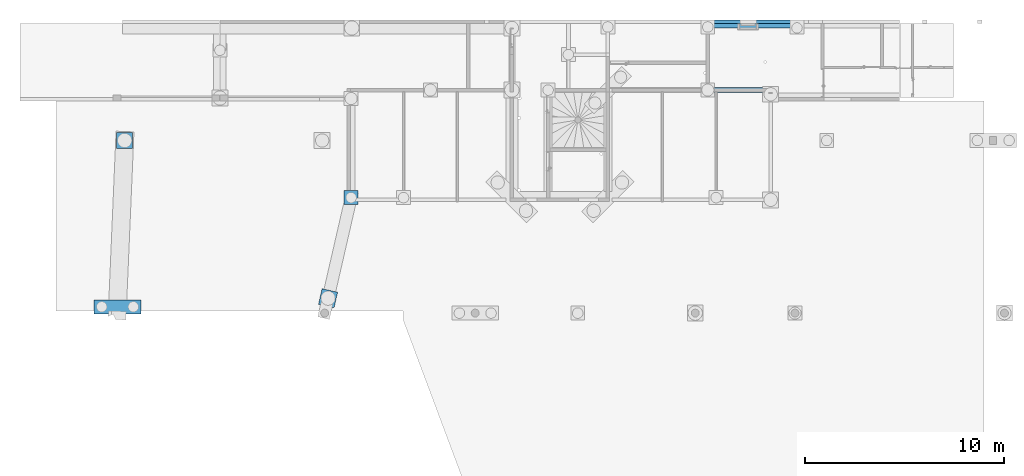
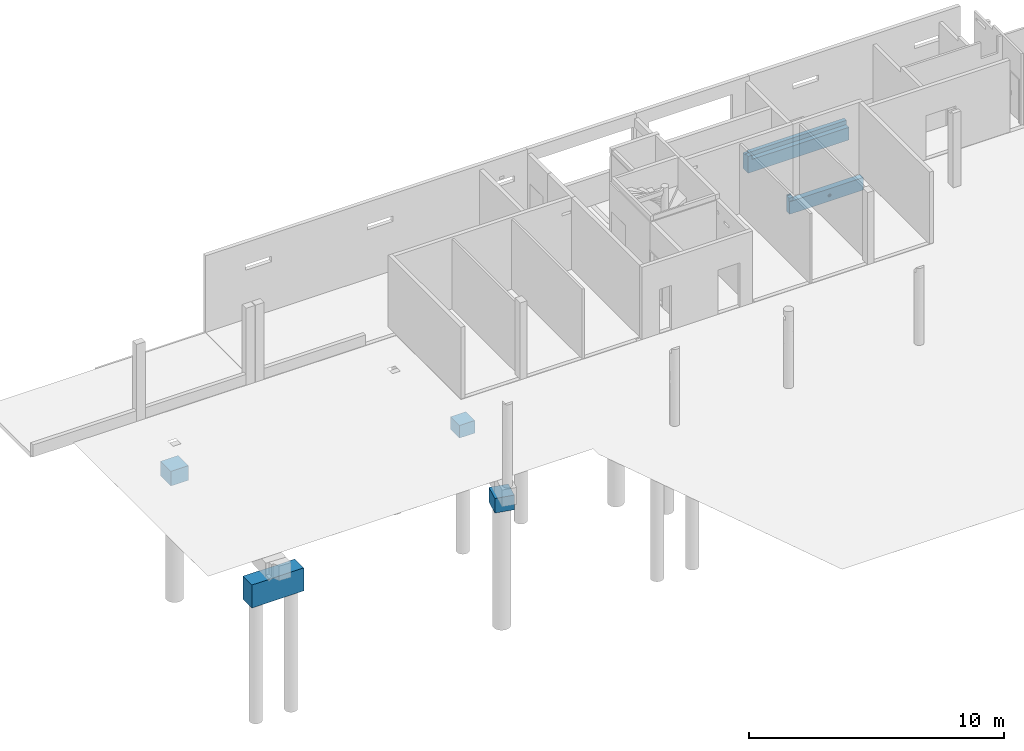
# One storey, part 15 of 29: 4 slabs, 2 beams.
"""IFC2X3 building model written with IfcOpenShell, lengths in centimetres."""

from ifc_helpers import new_model, entity, si_unit, converted_unit, derived_unit, direction, frame, origin, place, context, subcontext, project, spatial, faceted_brep, material, material_list, type_object, element, save


model = new_model("IFC2X3")

# Units and contexts
model_context = context("Model", 3, precision=0.001, world=origin(), true_north=direction((6.12303176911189e-17, 1.0)))
body_context = subcontext(model_context, "Body", "Model", "MODEL_VIEW")
ifc_project = project(units=[si_unit("LENGTHUNIT", "METRE", prefix="CENTI"), si_unit("AREAUNIT", "SQUARE_METRE"), si_unit("VOLUMEUNIT", "CUBIC_METRE"), converted_unit("PLANEANGLEUNIT", "DEGREE", entity("IfcRatioMeasure", 0.0174532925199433), si_unit("PLANEANGLEUNIT", "RADIAN"), dimensions=[0, 0, 0, 0, 0, 0, 0]), si_unit("MASSUNIT", "GRAM", prefix="KILO"), derived_unit("MASSDENSITYUNIT", [(si_unit("MASSUNIT", "GRAM", prefix="KILO"), 1), (si_unit("LENGTHUNIT", "METRE"), -3)]), si_unit("TIMEUNIT", "SECOND"), si_unit("FREQUENCYUNIT", "HERTZ"), si_unit("THERMODYNAMICTEMPERATUREUNIT", "DEGREE_CELSIUS"), derived_unit("THERMALTRANSMITTANCEUNIT", [(si_unit("MASSUNIT", "GRAM", prefix="KILO"), 1), (si_unit("THERMODYNAMICTEMPERATUREUNIT", "KELVIN"), -1), (si_unit("TIMEUNIT", "SECOND"), -3)]), derived_unit("VOLUMETRICFLOWRATEUNIT", [(si_unit("LENGTHUNIT", "METRE"), 3), (si_unit("TIMEUNIT", "SECOND"), -1)]), si_unit("ELECTRICCURRENTUNIT", "AMPERE"), si_unit("ELECTRICVOLTAGEUNIT", "VOLT"), si_unit("POWERUNIT", "WATT"), si_unit("FORCEUNIT", "NEWTON"), si_unit("ILLUMINANCEUNIT", "LUX"), si_unit("LUMINOUSFLUXUNIT", "LUMEN"), si_unit("LUMINOUSINTENSITYUNIT", "CANDELA"), derived_unit("USERDEFINED", [(si_unit("MASSUNIT", "GRAM", prefix="KILO"), -1), (si_unit("LENGTHUNIT", "METRE"), -2), (si_unit("TIMEUNIT", "SECOND"), 3), (si_unit("LUMINOUSFLUXUNIT", "LUMEN"), 1)]), derived_unit("LINEARVELOCITYUNIT", [(si_unit("LENGTHUNIT", "METRE"), 1), (si_unit("TIMEUNIT", "SECOND"), -1)]), si_unit("PRESSUREUNIT", "PASCAL"), derived_unit("USERDEFINED", [(si_unit("LENGTHUNIT", "METRE"), -2), (si_unit("MASSUNIT", "GRAM", prefix="KILO"), 1), (si_unit("TIMEUNIT", "SECOND"), -2)])], contexts=[model_context])

# Site, building, storey
site_placement = place(None, origin())
site = spatial("IfcSite", under=ifc_project, at=site_placement, Name="Default", CompositionType="ELEMENT")
building_placement = place(site_placement, origin())
building = spatial("IfcBuilding", under=site, at=building_placement, Name="CAGE 03", CompositionType="ELEMENT")
storey_placement = place(building_placement, frame((0.0, 0.0, -26.0)))
storey = spatial("IfcBuildingStorey", under=building, at=storey_placement, Name="+3.74", CompositionType="ELEMENT", Elevation=-26.0000000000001)

# Beams
ifc_material_1 = material(Name="Béton, C25/30")
ifc_material_2 = material(Name="<Unnamed>")
ifc_material_list = material_list([ifc_material_1, ifc_material_2])
beam_type_1 = type_object("IfcBeamType", Name="40x80ht", PredefinedType="BEAM", material=ifc_material_list)
beam_1_placement = place(storey_placement, frame((7815.36582014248, 5253.6606660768, -80.0)))
element("IfcBeam", 1, at=beam_1_placement, inside=storey, type_object=beam_type_1, material=ifc_material_1, Name="BBGO-Poutre rect:40x80ht", ObjectType="BBGO-Poutre rect:40x80ht", context=body_context, shape_type="Brep", body=[
    faceted_brep([(0.0, 0.0, 0.0), (457.0, 0.0, 0.0), (457.0, 0.0, 60.0), (18.0, 0.0, 60.0), (18.0, 0.0, 80.0), (0.0, 0.0, 80.0), (0.0, 22.0, 0.0), (0.0, 40.0, 0.0), (44.0, 40.0, 0.0), (422.0, 40.0, 0.0), (457.0, 40.0, 0.0), (0.0, 40.0, 75.0), (18.0, 40.0, 75.0), (18.0, 40.0, 80.0), (457.0, 40.0, 80.0), (18.0, 22.0, 80.0), (457.0, 22.0, 80.0), (457.0, 22.0, 60.0), (18.0, 22.0, 75.0), (0.0, 22.0, 75.0), (0.0, 22.0, 80.0), (18.0, 22.0, 60.0)], [[[0, 1, 2, 3, 4, 5]], [[1, 0, 6, 7, 8, 9, 10]], [[10, 9, 8, 7, 11, 12, 13, 14]], [[14, 13, 15, 16]], [[1, 10, 14, 16, 17, 2]], [[18, 19, 20, 15]], [[19, 18, 12, 11]], [[12, 18, 15, 13]], [[17, 21, 3, 2]], [[18, 21, 17, 16, 15]], [[21, 18, 15, 4, 3]], [[15, 20, 5, 4]], [[7, 6, 0, 5, 20, 19, 11]]]),
])
beam_type_2 = type_object("IfcBeamType", Name="BBGO-Poutre rect:25x80ht", PredefinedType="BEAM")
beam_2_placement = place(storey_placement, frame((7815.36582014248, 4929.1606660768, -80.0), z_axis=(0.0, 0.0, 1.0), x_axis=(-1.0, 0.0, 0.0)))
element("IfcBeam", 2, at=beam_2_placement, inside=storey, type_object=beam_type_2, material=ifc_material_1, Name="BBGO-Poutre rect:25x80ht", ObjectType="BBGO-Poutre rect:25x80ht", context=body_context, shape_type="Brep", body=[
    faceted_brep([(0.0, -21.5000000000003, 80.0), (0.0, -25.0, 80.0), (0.0, -25.0, 55.0), (0.0, -25.0, 0.0), (0.0, 0.0, 0.0), (0.0, 0.0, 60.0), (0.0, -3.50000000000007, 60.0), (0.0, -3.50000000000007, 75.0), (0.0, -21.5000000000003, 75.0), (-334.0, 0.0, 0.0), (-334.0, -25.0, 0.0), (-334.0, -25.0, 60.0), (-334.0, 0.0, 60.0), (-18.0, -25.0, 60.0), (-18.0, -25.0, 80.0), (-174.540017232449, -25.0, 25.38098435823), (-174.283908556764, -25.0, 26.6685296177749), (-174.007173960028, -25.0, 28.0597683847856), (-174.273595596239, -25.0, 29.3991603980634), (-174.540017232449, -25.0, 30.7385524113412), (-175.298721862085, -25.0, 31.8740341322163), (-176.057426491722, -25.0, 33.0095158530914), (-177.192908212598, -25.0, 33.7682204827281), (-178.328389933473, -25.0, 34.5269251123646), (-179.667781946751, -25.0, 34.7933467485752), (-181.007173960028, -25.0, 35.0597683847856), (-182.346565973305, -25.0, 34.7933467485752), (-183.685957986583, -25.0, 34.5269251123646), (-184.821439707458, -25.0, 33.7682204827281), (-185.956921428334, -25.0, 33.0095158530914), (-186.715626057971, -25.0, 31.8740341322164), (-187.474330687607, -25.0, 30.7385524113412), (-187.730439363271, -25.0, 29.4510071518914), (-188.007173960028, -25.0, 28.0597683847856), (-181.007173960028, -25.0, 21.0597683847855), (-182.346565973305, -25.0, 21.3261900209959), (-187.740752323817, -25.0, 26.7203763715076), (-187.474330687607, -25.0, 25.3809843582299), (-183.685957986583, -25.0, 21.5926116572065), (-184.821439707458, -25.0, 22.351316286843), (-185.956921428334, -25.0, 23.1100209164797), (-186.715626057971, -25.0, 24.2455026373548), (-175.298721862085, -25.0, 24.2455026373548), (-176.057426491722, -25.0, 23.1100209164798), (-177.192908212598, -25.0, 22.351316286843), (-178.328389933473, -25.0, 21.5926116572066), (-179.667781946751, -25.0, 21.3261900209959), (-316.0, 0.0, 0.0), (-181.007173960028, 0.0, 21.0597683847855), (-182.346565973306, 0.0, 21.3261900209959), (-183.685957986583, 0.0, 21.5926116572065), (-184.821439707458, 0.0, 22.351316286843), (-185.956921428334, 0.0, 23.1100209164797), (-186.715626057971, 0.0, 24.2455026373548), (-187.474330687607, 0.0, 25.3809843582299), (-187.740752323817, 0.0, 26.7203763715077), (-188.007173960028, 0.0, 28.0597683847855), (-316.0, 0.0, 60.0), (-187.740752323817, 0.0, 29.3991603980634), (-187.474330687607, 0.0, 30.7385524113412), (-186.715626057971, 0.0, 31.8740341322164), (-185.956921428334, 0.0, 33.0095158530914), (-184.821439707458, 0.0, 33.7682204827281), (-183.685957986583, 0.0, 34.5269251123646), (-182.346565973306, 0.0, 34.7933467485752), (-181.007173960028, 0.0, 35.0597683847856), (-174.007173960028, 0.0, 28.0597683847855), (-174.283908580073, 0.0, 29.4510072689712), (-174.540017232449, 0.0, 30.7385524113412), (-175.298721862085, 0.0, 31.8740341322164), (-176.057426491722, 0.0, 33.0095158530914), (-177.192908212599, 0.0, 33.7682204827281), (-178.328389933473, 0.0, 34.5269251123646), (-179.667781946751, 0.0, 34.7933467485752), (-179.667781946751, 0.0, 21.3261900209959), (-178.328389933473, 0.0, 21.5926116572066), (-177.192908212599, 0.0, 22.351316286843), (-176.057426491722, 0.0, 23.1100209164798), (-175.298721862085, 0.0, 24.2455026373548), (-174.540017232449, 0.0, 25.38098435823), (-174.27359559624, 0.0, 26.7203763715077), (-18.0, -21.5000000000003, 80.0), (-18.0, -3.50000000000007, 60.0), (-18.0, -3.50000000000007, 75.0), (-18.0, -21.5000000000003, 75.0)], [[[0, 1, 2, 3, 4, 5, 6, 7, 8]], [[9, 10, 11, 12]], [[13, 1, 14]], [[1, 13, 2]], [[2, 13, 3]], [[15, 3, 13]], [[13, 16, 15]], [[13, 17, 16]], [[13, 18, 17]], [[13, 19, 18]], [[13, 20, 19]], [[13, 21, 20]], [[13, 22, 21]], [[13, 23, 22]], [[13, 24, 23]], [[13, 25, 24]], [[25, 13, 11]], [[11, 26, 25]], [[11, 27, 26]], [[11, 28, 27]], [[11, 29, 28]], [[11, 30, 29]], [[11, 31, 30]], [[11, 32, 31]], [[11, 33, 32]], [[11, 10, 33]], [[10, 3, 34]], [[10, 34, 35]], [[10, 36, 33]], [[10, 37, 36]], [[10, 35, 38]], [[10, 38, 39]], [[10, 39, 40]], [[10, 40, 41]], [[10, 41, 37]], [[3, 15, 42]], [[3, 42, 43]], [[3, 43, 44]], [[3, 44, 45]], [[3, 45, 46]], [[3, 46, 34]], [[47, 4, 3, 10, 9]], [[47, 48, 4]], [[47, 49, 48]], [[47, 50, 49]], [[47, 51, 50]], [[47, 52, 51]], [[47, 53, 52]], [[47, 54, 53]], [[47, 55, 54]], [[47, 56, 55]], [[56, 47, 57]], [[9, 57, 47]], [[57, 9, 12]], [[57, 58, 56]], [[57, 59, 58]], [[57, 60, 59]], [[57, 61, 60]], [[57, 62, 61]], [[57, 63, 62]], [[57, 64, 63]], [[57, 65, 64]], [[5, 65, 57]], [[5, 4, 66]], [[5, 66, 67]], [[5, 67, 68]], [[5, 68, 69]], [[5, 69, 70]], [[5, 70, 71]], [[5, 71, 72]], [[5, 72, 73]], [[5, 73, 65]], [[4, 48, 74]], [[4, 74, 75]], [[4, 75, 76]], [[4, 76, 77]], [[4, 77, 78]], [[4, 78, 79]], [[4, 79, 80]], [[4, 80, 66]], [[1, 0, 81, 14]], [[57, 12, 11, 13, 82, 6, 5]], [[7, 6, 82, 83]], [[84, 83, 82, 13, 14, 81]], [[0, 8, 84, 81]], [[8, 7, 83, 84]], [[52, 53, 54, 37, 41, 40]], [[51, 52, 40, 39, 38, 50]], [[74, 48, 34, 46, 45, 75]], [[49, 50, 38, 35, 34, 48]], [[54, 55, 56, 33, 36, 37]], [[76, 75, 45, 44, 43, 77]], [[80, 79, 15, 16, 17, 66]], [[78, 77, 43, 42, 15, 79]], [[71, 70, 21, 22, 23, 72]], [[24, 25, 65, 73, 72, 23]], [[64, 65, 25, 26, 27, 63]], [[18, 19, 68, 67, 66, 17]], [[20, 21, 70, 69, 68, 19]], [[62, 63, 27, 28, 29, 61]], [[58, 59, 31, 32, 33, 56]], [[60, 61, 29, 30, 31, 59]]]),
])

# Slabs
slab_1_placement = place(storey_placement, frame((4742.6444007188, 3818.2557371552, -212.0)))
element("IfcSlab", 3, at=slab_1_placement, inside=storey, material=ifc_material_1, Name="M_Base-Rectangulaire:235x70x110ht", ObjectType="M_Base-Rectangulaire:235x70x110ht", PredefinedType="BASESLAB", context=body_context, shape_type="Brep", body=[
    faceted_brep([(235.0, 70.0, 110.0), (0.0, 70.0, 110.0), (0.0, 0.0, 110.0), (235.0, 0.0, 110.0), (0.0, 0.0, 0.0), (40.7700042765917, 8.64516977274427, 0.0), (235.0, 0.0, 0.0), (35.6445129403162, 10.3105428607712, 0.0), (30.5190216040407, 11.9759159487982, 0.0), (25.3935302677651, 13.641289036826, 0.0), (20.2680389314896, 15.3066621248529, 0.0), (18.0760291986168, 20.2299965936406, 0.0), (15.8840194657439, 25.1533310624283, 0.0), (13.692009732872, 30.076665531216, 0.0), (11.4999999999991, 35.0, 0.0), (0.0, 70.0, 0.0), (14.0305248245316, 42.7881545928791, 0.0), (16.5610496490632, 50.576309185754, 0.0), (21.2282861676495, 53.2709394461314, 0.0), (25.895522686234, 55.9655697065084, 0.0), (30.5627592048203, 58.6601999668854, 0.0), (35.2299957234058, 61.3548302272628, 0.0), (194.229995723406, 61.3548302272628, 0.0), (235.0, 70.0, 0.0), (223.499999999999, 35.0, 0.0), (221.307990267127, 39.9233344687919, 0.0), (199.355487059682, 59.6894571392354, 0.0), (204.480978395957, 58.0240840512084, 0.0), (209.606469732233, 56.3587109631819, 0.0), (214.731961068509, 54.693337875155, 0.0), (219.115980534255, 44.8466689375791, 0.0), (216.923970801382, 49.7700034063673, 0.0), (40.3554870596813, 59.6894571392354, 0.0), (45.4809783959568, 58.0240840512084, 0.0), (50.6064697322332, 56.3587109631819, 0.0), (55.7319610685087, 54.693337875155, 0.0), (189.562759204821, 58.6601999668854, 0.0), (184.895522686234, 55.9655697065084, 0.0), (180.228286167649, 53.2709394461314, 0.0), (175.561049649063, 50.576309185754, 0.0), (57.9239708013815, 49.7700034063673, 0.0), (60.1159805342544, 44.8466689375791, 0.0), (62.3079902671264, 39.9233344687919, 0.0), (64.4999999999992, 35.0, 0.0), (173.030524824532, 42.7881545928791, 0.0), (170.499999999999, 35.0, 0.0), (61.9694751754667, 27.2118454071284, 0.0), (59.4389503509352, 19.4236908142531, 0.0), (172.692009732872, 30.076665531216, 0.0), (174.884019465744, 25.1533310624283, 0.0), (177.076029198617, 20.2299965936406, 0.0), (179.26803893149, 15.3066621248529, 0.0), (45.437240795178, 11.3398000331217, 0.0), (184.393530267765, 13.641289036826, 0.0), (50.1044773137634, 14.0344302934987, 0.0), (54.7717138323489, 16.7290605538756, 0.0), (189.519021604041, 11.9759159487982, 0.0), (194.644512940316, 10.3105428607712, 0.0), (199.770004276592, 8.64516977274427, 0.0), (204.437240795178, 11.3398000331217, 0.0), (209.104477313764, 14.0344302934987, 0.0), (213.771713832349, 16.7290605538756, 0.0), (218.438950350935, 19.4236908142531, 0.0), (220.969475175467, 27.2118454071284, 0.0), (11.4999999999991, 35.0, 5.0), (13.692009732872, 39.9233344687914, 5.0), (15.8840194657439, 44.8466689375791, 5.0), (18.0760291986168, 49.7700034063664, 5.0), (20.2680389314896, 54.6933378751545, 5.0), (25.3935302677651, 56.3587109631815, 5.0), (30.5190216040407, 58.0240840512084, 5.0), (35.6445129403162, 59.6894571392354, 5.0), (40.7700042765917, 61.3548302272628, 5.0), (45.4372407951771, 58.6601999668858, 5.0), (50.1044773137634, 55.9655697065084, 5.0), (54.7717138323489, 53.270939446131, 5.0), (59.4389503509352, 50.5763091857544, 5.0), (61.9694751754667, 42.7881545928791, 5.0), (64.4999999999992, 35.0, 5.0), (62.3079902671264, 30.076665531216, 5.0), (60.1159805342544, 25.1533310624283, 5.0), (57.9239708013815, 20.2299965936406, 5.0), (55.7319610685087, 15.3066621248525, 5.0), (50.6064697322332, 13.6412890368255, 5.0), (45.4809783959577, 11.9759159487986, 5.0), (40.3554870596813, 10.3105428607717, 5.0), (35.2299957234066, 8.6451697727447, 5.0), (30.5627592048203, 11.3398000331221, 5.0), (25.895522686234, 14.0344302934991, 5.0), (21.2282861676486, 16.7290605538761, 5.0), (16.5610496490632, 19.4236908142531, 5.0), (14.0305248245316, 27.2118454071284, 5.0), (170.499999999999, 35.0, 5.0), (172.692009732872, 39.9233344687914, 5.0), (174.884019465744, 44.8466689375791, 5.0), (177.076029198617, 49.7700034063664, 5.0), (179.26803893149, 54.6933378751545, 5.0), (184.393530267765, 56.3587109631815, 5.0), (189.519021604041, 58.0240840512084, 5.0), (194.644512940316, 59.6894571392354, 5.0), (199.770004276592, 61.3548302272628, 5.0), (204.437240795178, 58.6601999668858, 5.0), (209.104477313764, 55.9655697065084, 5.0), (213.771713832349, 53.270939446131, 5.0), (218.438950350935, 50.5763091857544, 5.0), (220.969475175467, 42.7881545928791, 5.0), (223.499999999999, 35.0, 5.0), (221.307990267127, 30.076665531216, 5.0), (219.115980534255, 25.1533310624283, 5.0), (216.923970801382, 20.2299965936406, 5.0), (214.731961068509, 15.3066621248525, 5.0), (209.606469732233, 13.6412890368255, 5.0), (204.480978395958, 11.9759159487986, 5.0), (199.355487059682, 10.3105428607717, 5.0), (194.229995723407, 8.6451697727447, 5.0), (189.562759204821, 11.3398000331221, 5.0), (184.895522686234, 14.0344302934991, 5.0), (180.228286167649, 16.7290605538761, 5.0), (175.561049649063, 19.4236908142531, 5.0), (173.030524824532, 27.2118454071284, 5.0)], [[[0, 1, 2, 3]], [[4, 5, 6]], [[4, 7, 5]], [[4, 8, 7]], [[4, 9, 8]], [[4, 10, 9]], [[4, 11, 10]], [[4, 12, 11]], [[4, 13, 12]], [[4, 14, 13]], [[14, 4, 15]], [[15, 16, 14]], [[15, 17, 16]], [[15, 18, 17]], [[15, 19, 18]], [[15, 20, 19]], [[15, 21, 20]], [[21, 15, 22]], [[23, 22, 15]], [[24, 23, 6]], [[23, 24, 25]], [[23, 26, 22]], [[23, 27, 26]], [[23, 28, 27]], [[23, 29, 28]], [[23, 25, 30]], [[23, 30, 31]], [[23, 31, 29]], [[22, 32, 21]], [[22, 33, 32]], [[22, 34, 33]], [[22, 35, 34]], [[35, 22, 36]], [[35, 36, 37]], [[35, 37, 38]], [[35, 38, 39]], [[39, 40, 35]], [[39, 41, 40]], [[39, 42, 41]], [[39, 43, 42]], [[43, 39, 44]], [[43, 44, 45]], [[45, 46, 43]], [[45, 47, 46]], [[47, 45, 48]], [[47, 48, 49]], [[47, 49, 50]], [[47, 50, 51]], [[51, 5, 52]], [[5, 51, 53]], [[51, 52, 54]], [[51, 54, 55]], [[51, 55, 47]], [[5, 53, 56]], [[5, 56, 57]], [[5, 57, 58]], [[6, 58, 59]], [[58, 6, 5]], [[6, 59, 60]], [[6, 60, 61]], [[6, 61, 62]], [[6, 62, 63]], [[6, 63, 24]], [[2, 1, 15, 4]], [[3, 2, 4, 6]], [[0, 3, 6, 23]], [[1, 0, 23, 15]], [[64, 65, 66, 67, 68, 69, 70, 71, 72, 73, 74, 75, 76, 77, 78, 79, 80, 81, 82, 83, 84, 85, 86, 87, 88, 89, 90, 91]], [[92, 93, 94, 95, 96, 97, 98, 99, 100, 101, 102, 103, 104, 105, 106, 107, 108, 109, 110, 111, 112, 113, 114, 115, 116, 117, 118, 119]], [[11, 12, 90]], [[91, 13, 64]], [[91, 90, 12]], [[90, 89, 11]], [[46, 47, 80]], [[87, 86, 8]], [[64, 13, 14]], [[54, 83, 55]], [[9, 10, 88]], [[47, 55, 82]], [[46, 79, 43]], [[8, 86, 7]], [[88, 10, 89]], [[12, 13, 91]], [[85, 7, 86]], [[89, 10, 11]], [[84, 83, 54]], [[9, 87, 8]], [[82, 55, 83]], [[81, 80, 47, 82]], [[85, 5, 7]], [[52, 5, 84, 54]], [[9, 88, 87]], [[78, 43, 79]], [[85, 84, 5]], [[46, 80, 79]], [[40, 41, 76]], [[77, 42, 78]], [[77, 76, 41]], [[76, 75, 40]], [[74, 35, 75]], [[73, 34, 74]], [[78, 42, 43]], [[21, 71, 20]], [[73, 72, 33]], [[67, 66, 17, 68]], [[16, 65, 14]], [[33, 72, 32]], [[41, 42, 77]], [[71, 21, 32]], [[75, 35, 40]], [[70, 69, 19]], [[34, 35, 74]], [[16, 17, 66]], [[73, 33, 34]], [[64, 14, 65]], [[70, 20, 71]], [[68, 18, 69]], [[19, 69, 18]], [[68, 17, 18]], [[71, 32, 72]], [[70, 19, 20]], [[16, 66, 65]], [[50, 49, 118]], [[119, 48, 92]], [[119, 118, 49]], [[118, 117, 50]], [[63, 62, 108]], [[115, 114, 56]], [[92, 48, 45]], [[60, 111, 61]], [[53, 51, 116]], [[62, 61, 110]], [[63, 107, 24]], [[56, 114, 57]], [[116, 51, 117]], [[49, 48, 119]], [[113, 57, 114]], [[117, 51, 50]], [[112, 111, 60]], [[53, 115, 56]], [[110, 61, 111]], [[109, 108, 62, 110]], [[113, 58, 57]], [[59, 58, 112, 60]], [[53, 116, 115]], [[106, 24, 107]], [[113, 112, 58]], [[63, 108, 107]], [[31, 30, 104]], [[105, 25, 106]], [[105, 104, 30]], [[104, 103, 31]], [[102, 29, 103]], [[101, 28, 102]], [[106, 25, 24]], [[22, 99, 36]], [[101, 100, 27]], [[95, 94, 39, 96]], [[44, 93, 45]], [[27, 100, 26]], [[30, 25, 105]], [[99, 22, 26]], [[103, 29, 31]], [[98, 97, 37]], [[28, 29, 102]], [[44, 39, 94]], [[101, 27, 28]], [[92, 45, 93]], [[98, 36, 99]], [[96, 38, 97]], [[37, 97, 38]], [[96, 39, 38]], [[99, 26, 100]], [[98, 37, 36]], [[44, 94, 93]]]),
])
slab_2_placement = place(storey_placement, frame((4855.86582014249, 4648.66066607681, -172.0)))
element("IfcSlab", 4, at=slab_2_placement, inside=storey, material=ifc_material_1, Name="M_Base-Rectangulaire:80x80x70ht", ObjectType="M_Base-Rectangulaire:80x80x70ht", PredefinedType="BASESLAB", context=body_context, shape_type="Brep", body=[
    faceted_brep([(80.0, 80.0, 70.0), (0.0, 80.0, 70.0), (0.0, 0.0, 70.0), (80.0, 0.0, 70.0), (0.0, 0.0, 0.0), (4.0, 40.0, 0.0), (6.34891974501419, 33.9367392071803, 0.0), (0.0, 80.0, 0.0), (8.69783949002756, 27.8734784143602, 0.0), (11.0467592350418, 21.8102176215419, 0.0), (13.395678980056, 15.7469568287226, 0.0), (20.8771744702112, 12.8486100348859, 0.0), (28.3586699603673, 9.95026324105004, 0.0), (35.8401654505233, 7.05191644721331, 0.0), (43.3216609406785, 4.15356965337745, 0.0), (80.0, 0.0, 0.0), (6.34891974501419, 46.0632607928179, 0.0), (8.69783949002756, 52.1265215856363, 0.0), (11.0467592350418, 58.1897823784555, 0.0), (13.395678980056, 64.2530431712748, 0.0), (19.2163439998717, 67.1513899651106, 0.0), (25.0370090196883, 70.0497367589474, 0.0), (30.857674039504, 72.9480835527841, 0.0), (36.6783390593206, 75.84643034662, 0.0), (80.0, 80.0, 0.0), (76.0, 40.0, 0.0), (73.6510802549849, 46.0632607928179, 0.0), (71.3021605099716, 52.1265215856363, 0.0), (68.9532407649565, 58.1897823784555, 0.0), (66.6043210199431, 64.2530431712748, 0.0), (59.1228255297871, 67.1513899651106, 0.0), (51.6413300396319, 70.0497367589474, 0.0), (44.1598345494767, 72.9480835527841, 0.0), (49.1423259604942, 7.05191644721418, 0.0), (54.9629909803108, 9.95026324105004, 0.0), (60.7836560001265, 12.8486100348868, 0.0), (66.6043210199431, 15.7469568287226, 0.0), (68.9532407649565, 21.8102176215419, 0.0), (71.3021605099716, 27.8734784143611, 0.0), (73.6510802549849, 33.9367392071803, 0.0), (66.604321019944, 15.7469568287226, 5.0), (59.1228255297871, 12.8486100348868, 5.0), (51.6413300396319, 9.95026324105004, 5.0), (44.1598345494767, 7.05191644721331, 5.0), (36.6783390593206, 4.15356965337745, 5.0), (30.857674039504, 7.05191644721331, 5.0), (25.0370090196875, 9.95026324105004, 5.0), (19.2163439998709, 12.8486100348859, 5.0), (13.395678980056, 15.7469568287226, 5.0), (11.0467592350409, 21.8102176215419, 5.0), (8.69783949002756, 27.8734784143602, 5.0), (6.92390641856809, 32.4525275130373, 5.0), (4.0, 40.0, 5.0), (6.92390641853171, 47.5474724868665, 5.0), (8.69783949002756, 52.1265215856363, 5.0), (11.0467592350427, 58.1897823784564, 5.0), (13.395678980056, 64.2530431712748, 5.0), (20.8771744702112, 67.1513899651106, 5.0), (28.3586699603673, 70.0497367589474, 5.0), (35.8401654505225, 72.9480835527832, 5.0), (43.3216609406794, 75.84643034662, 5.0), (49.1423259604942, 72.9480835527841, 5.0), (54.9629909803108, 70.0497367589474, 5.0), (60.7836560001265, 67.1513899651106, 5.0), (66.604321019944, 64.2530431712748, 5.0), (68.9532407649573, 58.1897823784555, 5.0), (71.3021605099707, 52.1265215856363, 5.0), (73.0760935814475, 47.5474724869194, 5.0), (76.0, 40.0, 5.0), (73.0760935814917, 32.4525275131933, 5.0), (71.3021605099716, 27.8734784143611, 5.0), (68.9532407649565, 21.8102176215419, 5.0)], [[[0, 1, 2, 3]], [[4, 5, 6]], [[5, 4, 7]], [[4, 6, 8]], [[4, 8, 9]], [[4, 9, 10]], [[4, 10, 11]], [[4, 11, 12]], [[4, 12, 13]], [[4, 13, 14]], [[14, 15, 4]], [[7, 16, 5]], [[7, 17, 16]], [[7, 18, 17]], [[7, 19, 18]], [[7, 20, 19]], [[7, 21, 20]], [[7, 22, 21]], [[7, 23, 22]], [[23, 7, 24]], [[25, 24, 15]], [[24, 25, 26]], [[24, 26, 27]], [[24, 27, 28]], [[24, 28, 29]], [[24, 29, 30]], [[24, 30, 31]], [[24, 31, 32]], [[24, 32, 23]], [[15, 14, 33]], [[15, 33, 34]], [[15, 34, 35]], [[15, 35, 36]], [[15, 36, 37]], [[15, 37, 38]], [[15, 38, 39]], [[15, 39, 25]], [[2, 1, 7, 4]], [[3, 2, 4, 15]], [[0, 3, 15, 24]], [[1, 0, 24, 7]], [[40, 41, 42, 43, 44, 45, 46, 47, 48, 49, 50, 51, 52, 53, 54, 55, 56, 57, 58, 59, 60, 61, 62, 63, 64, 65, 66, 67, 68, 69, 70, 71]], [[6, 5, 52, 51, 50, 49, 48, 10, 9, 8]], [[39, 38, 37, 36, 40, 71, 70, 69, 68, 25]], [[48, 47, 10]], [[47, 46, 11]], [[36, 35, 40]], [[42, 33, 43]], [[35, 41, 40]], [[14, 13, 44]], [[12, 11, 46]], [[47, 11, 10]], [[35, 34, 41]], [[41, 34, 42]], [[12, 45, 13]], [[14, 43, 33]], [[42, 34, 33]], [[44, 13, 45]], [[12, 46, 45]], [[14, 44, 43]], [[26, 25, 68, 67, 66, 65, 64, 29, 28, 27]], [[16, 17, 18, 19, 56, 55, 54, 53, 52, 5]], [[64, 63, 29]], [[63, 62, 30]], [[19, 20, 56]], [[58, 22, 59]], [[20, 57, 56]], [[23, 32, 60]], [[31, 30, 62]], [[63, 30, 29]], [[20, 21, 57]], [[57, 21, 58]], [[31, 61, 32]], [[23, 59, 22]], [[58, 21, 22]], [[60, 32, 61]], [[31, 62, 61]], [[23, 60, 59]]]),
])
slab_3_placement = place(storey_placement, frame((5998.36582014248, 4366.6606660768, -172.0)))
element("IfcSlab", 5, at=slab_3_placement, inside=storey, material=ifc_material_1, Name="M_Base-Rectangulaire:70x70x60ht", ObjectType="M_Base-Rectangulaire:70x70x60ht", PredefinedType="BASESLAB", context=body_context, shape_type="Brep", body=[
    faceted_brep([(70.0, 70.0, 60.0), (0.0, 70.0, 60.0), (0.0, 0.0, 60.0), (70.0, 0.0, 60.0), (0.0, 0.0, 0.0), (8.4999999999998, 35.0, 0.0), (10.6920097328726, 30.0766655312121, 0.0), (0.0, 70.0, 0.0), (12.8840194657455, 25.1533310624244, 0.0), (15.0760291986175, 20.2299965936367, 0.0), (17.2680389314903, 15.306662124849, 0.0), (22.3935302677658, 13.6412890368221, 0.0), (27.5190216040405, 11.9759159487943, 0.0), (32.6445129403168, 10.3105428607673, 0.0), (37.7700042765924, 8.64516977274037, 0.0), (70.0, 0.0, 0.0), (11.0305248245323, 42.788154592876, 0.0), (13.5610496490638, 50.5763091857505, 0.0), (18.2282861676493, 53.2709394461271, 0.0), (22.8955226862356, 55.9655697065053, 0.0), (27.562759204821, 58.6601999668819, 0.0), (32.2299957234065, 61.3548302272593, 0.0), (70.0, 70.0, 0.0), (61.4999999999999, 35.0, 0.0), (59.307990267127, 39.9233344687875, 0.0), (57.1159805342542, 44.8466689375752, 0.0), (54.9239708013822, 49.7700034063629, 0.0), (52.7319610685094, 54.6933378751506, 0.0), (47.6064697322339, 56.3587109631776, 0.0), (42.4809783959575, 58.0240840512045, 0.0), (37.3554870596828, 59.6894571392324, 0.0), (42.4372407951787, 11.3398000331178, 0.0), (47.1044773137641, 14.0344302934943, 0.0), (51.7717138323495, 16.7290605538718, 0.0), (56.4389503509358, 19.4236908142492, 0.0), (58.9694751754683, 27.2118454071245, 0.0), (8.4999999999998, 35.0, 5.0), (10.6920097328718, 39.9233344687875, 5.0), (12.8840194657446, 44.8466689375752, 5.0), (15.0760291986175, 49.7700034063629, 5.0), (17.2680389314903, 54.6933378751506, 5.0), (22.3935302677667, 56.3587109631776, 5.0), (27.5190216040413, 58.0240840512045, 5.0), (32.6445129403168, 59.6894571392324, 5.0), (37.7700042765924, 61.3548302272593, 5.0), (42.4372407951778, 58.6601999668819, 5.0), (47.1044773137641, 55.9655697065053, 5.0), (51.7717138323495, 53.2709394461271, 5.0), (56.4389503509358, 50.5763091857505, 5.0), (58.9694751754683, 42.7881545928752, 5.0), (61.4999999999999, 35.0, 5.0), (59.307990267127, 30.0766655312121, 5.0), (57.1159805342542, 25.1533310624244, 5.0), (54.9239708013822, 20.2299965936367, 5.0), (52.7319610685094, 15.306662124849, 5.0), (47.6064697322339, 13.6412890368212, 5.0), (42.4809783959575, 11.9759159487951, 5.0), (37.355487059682, 10.3105428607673, 5.0), (32.2299957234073, 8.64516977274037, 5.0), (27.562759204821, 11.3398000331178, 5.0), (22.8955226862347, 14.0344302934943, 5.0), (18.2282861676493, 16.7290605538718, 5.0), (13.5610496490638, 19.4236908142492, 5.0), (11.0305248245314, 27.2118454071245, 5.0)], [[[0, 1, 2, 3]], [[4, 5, 6]], [[5, 4, 7]], [[4, 6, 8]], [[4, 8, 9]], [[4, 9, 10]], [[4, 10, 11]], [[4, 11, 12]], [[4, 12, 13]], [[4, 13, 14]], [[14, 15, 4]], [[7, 16, 5]], [[7, 17, 16]], [[7, 18, 17]], [[7, 19, 18]], [[7, 20, 19]], [[7, 21, 20]], [[21, 7, 22]], [[23, 22, 15]], [[22, 23, 24]], [[22, 24, 25]], [[22, 25, 26]], [[22, 26, 27]], [[22, 27, 28]], [[22, 28, 29]], [[22, 29, 30]], [[22, 30, 21]], [[15, 14, 31]], [[15, 31, 32]], [[15, 32, 33]], [[15, 33, 34]], [[15, 34, 35]], [[15, 35, 23]], [[2, 1, 7, 4]], [[3, 2, 4, 15]], [[0, 3, 15, 22]], [[1, 0, 22, 7]], [[36, 37, 38, 39, 40, 41, 42, 43, 44, 45, 46, 47, 48, 49, 50, 51, 52, 53, 54, 55, 56, 57, 58, 59, 60, 61, 62, 63]], [[9, 8, 62]], [[63, 6, 36]], [[63, 62, 8]], [[62, 61, 9]], [[35, 34, 52]], [[59, 58, 12]], [[36, 6, 5]], [[32, 55, 33]], [[11, 10, 60]], [[34, 33, 54]], [[35, 51, 23]], [[12, 58, 13]], [[60, 10, 61]], [[8, 6, 63]], [[57, 13, 58]], [[61, 10, 9]], [[56, 55, 32]], [[11, 59, 12]], [[54, 33, 55]], [[53, 52, 34, 54]], [[57, 14, 13]], [[31, 14, 56, 32]], [[11, 60, 59]], [[50, 23, 51]], [[57, 56, 14]], [[35, 52, 51]], [[26, 25, 48]], [[49, 24, 50]], [[49, 48, 25]], [[48, 47, 26]], [[46, 27, 47]], [[45, 28, 46]], [[50, 24, 23]], [[21, 43, 20]], [[45, 44, 29]], [[39, 38, 17, 40]], [[16, 37, 5]], [[29, 44, 30]], [[25, 24, 49]], [[43, 21, 30]], [[47, 27, 26]], [[42, 41, 19]], [[28, 27, 46]], [[16, 17, 38]], [[45, 29, 28]], [[36, 5, 37]], [[42, 20, 43]], [[40, 18, 41]], [[19, 41, 18]], [[40, 17, 18]], [[43, 30, 44]], [[42, 19, 20]], [[16, 38, 37]]]),
])
slab_4_placement = place(storey_placement, frame((5869.56739935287, 3848.4345691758, -182.0)))
element("IfcSlab", 6, at=slab_4_placement, inside=storey, material=ifc_material_1, Name="M_Base-Rectangulaire:80x80x70ht", ObjectType="M_Base-Rectangulaire:80x80x70ht", PredefinedType="BASESLAB", context=body_context, shape_type="Brep", body=[
    faceted_brep([(95.8568821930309, 77.976145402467, 70.0), (17.8807367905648, 95.8568821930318, 70.0), (0.0, 17.8807367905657, 70.0), (77.9761454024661, 0.0, 70.0), (0.0, 17.8807367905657, 0.0), (11.9966966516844, 48.2260969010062, 0.0), (14.3456163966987, 42.1628361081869, 0.0), (17.8807367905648, 95.8568821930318, 0.0), (16.694536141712, 36.0995753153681, 0.0), (19.0434558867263, 30.0363145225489, 0.0), (21.3923756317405, 23.9730537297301, 0.0), (28.8738711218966, 21.0747069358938, 0.0), (36.3553666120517, 18.1763601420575, 0.0), (43.8368621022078, 15.2780133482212, 0.0), (51.318357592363, 12.3796665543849, 0.0), (77.9761454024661, 0.0, 0.0), (14.3456163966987, 54.289357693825, 0.0), (16.694536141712, 60.3526184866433, 0.0), (19.0434558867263, 66.4158792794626, 0.0), (21.3923756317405, 72.4791400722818, 0.0), (27.2130406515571, 75.3774868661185, 0.0), (33.0337056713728, 78.2758336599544, 0.0), (38.8543706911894, 81.1741804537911, 0.0), (44.6750357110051, 84.072527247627, 0.0), (95.8568821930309, 77.976145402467, 0.0), (83.9966966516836, 48.2260969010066, 0.0), (81.6477769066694, 54.289357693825, 0.0), (79.2988571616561, 60.3526184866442, 0.0), (76.949937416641, 66.4158792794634, 0.0), (74.6010176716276, 72.4791400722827, 0.0), (67.1195221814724, 75.3774868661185, 0.0), (59.6380266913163, 78.2758336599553, 0.0), (52.1565312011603, 81.1741804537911, 0.0), (57.1390226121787, 15.2780133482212, 0.0), (62.9596876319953, 18.1763601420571, 0.0), (68.7803526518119, 21.0747069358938, 0.0), (74.6010176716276, 23.9730537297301, 0.0), (76.9499374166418, 30.0363145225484, 0.0), (79.2988571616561, 36.0995753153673, 0.0), (81.6477769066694, 42.1628361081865, 0.0), (74.6010176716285, 23.9730537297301, 5.0), (67.1195221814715, 21.0747069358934, 5.0), (59.6380266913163, 18.1763601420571, 5.0), (52.1565312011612, 15.2780133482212, 5.0), (44.6750357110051, 12.3796665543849, 5.0), (38.8543706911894, 15.2780133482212, 5.0), (33.0337056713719, 18.1763601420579, 5.0), (27.2130406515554, 21.0747069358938, 5.0), (21.3923756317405, 23.9730537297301, 5.0), (19.0434558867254, 30.0363145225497, 5.0), (16.694536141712, 36.0995753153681, 5.0), (14.9206030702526, 40.6786244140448, 5.0), (11.9966966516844, 48.2260969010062, 5.0), (14.9206030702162, 55.7735693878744, 5.0), (16.694536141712, 60.3526184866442, 5.0), (19.0434558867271, 66.4158792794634, 5.0), (21.3923756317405, 72.4791400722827, 5.0), (28.8738711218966, 75.3774868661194, 5.0), (36.3553666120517, 78.2758336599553, 5.0), (43.8368621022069, 81.1741804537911, 5.0), (51.3183575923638, 84.072527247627, 5.0), (57.1390226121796, 81.1741804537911, 5.0), (62.9596876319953, 78.2758336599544, 5.0), (68.780352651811, 75.3774868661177, 5.0), (74.6010176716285, 72.4791400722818, 5.0), (76.949937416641, 66.4158792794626, 5.0), (79.2988571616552, 60.3526184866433, 5.0), (81.072790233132, 55.7735693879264, 5.0), (83.9966966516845, 48.2260969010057, 5.0), (81.072790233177, 40.6786244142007, 5.0), (79.2988571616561, 36.0995753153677, 5.0), (76.949937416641, 30.0363145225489, 5.0)], [[[0, 1, 2, 3]], [[4, 5, 6]], [[5, 4, 7]], [[4, 6, 8]], [[4, 8, 9]], [[4, 9, 10]], [[4, 10, 11]], [[4, 11, 12]], [[4, 12, 13]], [[4, 13, 14]], [[14, 15, 4]], [[7, 16, 5]], [[7, 17, 16]], [[7, 18, 17]], [[7, 19, 18]], [[7, 20, 19]], [[7, 21, 20]], [[7, 22, 21]], [[7, 23, 22]], [[23, 7, 24]], [[25, 24, 15]], [[24, 25, 26]], [[24, 26, 27]], [[24, 27, 28]], [[24, 28, 29]], [[24, 29, 30]], [[24, 30, 31]], [[24, 31, 32]], [[24, 32, 23]], [[15, 14, 33]], [[15, 33, 34]], [[15, 34, 35]], [[15, 35, 36]], [[15, 36, 37]], [[15, 37, 38]], [[15, 38, 39]], [[15, 39, 25]], [[2, 1, 7, 4]], [[3, 2, 4, 15]], [[0, 3, 15, 24]], [[1, 0, 24, 7]], [[40, 41, 42, 43, 44, 45, 46, 47, 48, 49, 50, 51, 52, 53, 54, 55, 56, 57, 58, 59, 60, 61, 62, 63, 64, 65, 66, 67, 68, 69, 70, 71]], [[6, 5, 52, 51, 50, 49, 48, 10, 9, 8]], [[39, 38, 37, 36, 40, 71, 70, 69, 68, 25]], [[48, 47, 10]], [[47, 46, 11]], [[36, 35, 40]], [[42, 33, 43]], [[35, 41, 40]], [[14, 13, 44]], [[12, 11, 46]], [[47, 11, 10]], [[35, 34, 41]], [[41, 34, 42]], [[12, 45, 13]], [[14, 43, 33]], [[42, 34, 33]], [[44, 13, 45]], [[12, 46, 45]], [[14, 44, 43]], [[26, 25, 68, 67, 66, 65, 64, 29, 28, 27]], [[16, 17, 18, 19, 56, 55, 54, 53, 52, 5]], [[64, 63, 29]], [[63, 62, 30]], [[19, 20, 56]], [[58, 22, 59]], [[20, 57, 56]], [[23, 32, 60]], [[31, 30, 62]], [[63, 30, 29]], [[20, 21, 57]], [[57, 21, 58]], [[31, 61, 32]], [[23, 59, 22]], [[58, 21, 22]], [[60, 32, 61]], [[31, 62, 61]], [[23, 60, 59]]]),
])

save(model, "model.ifc")
